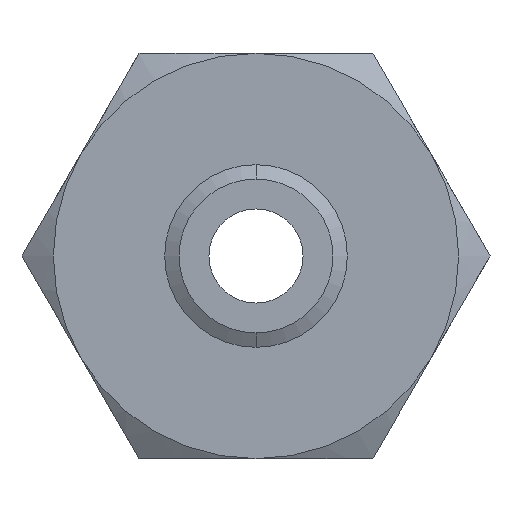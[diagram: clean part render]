
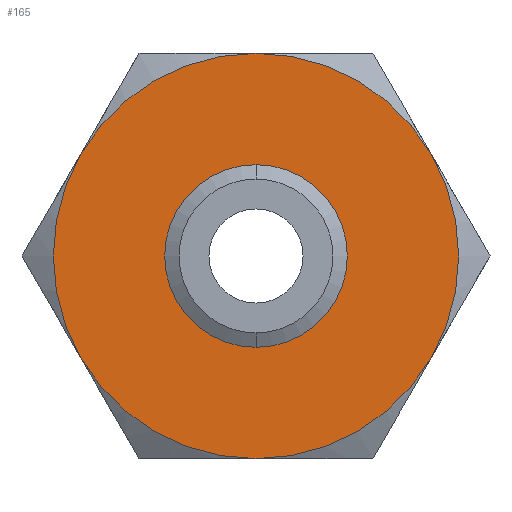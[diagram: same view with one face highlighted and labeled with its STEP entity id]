
A CAD part, front view. The second image highlights one B-rep face of the part: STEP entity #165.
In plain terms, the highlighted planar face has unit normal (0, -1, 0).
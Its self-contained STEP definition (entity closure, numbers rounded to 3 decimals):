
#88 = EDGE_LOOP ( 'NONE', ( #174, #176, #173, #133, #415, #451 ) ) ;
#132 = VERTEX_POINT ( 'NONE', #928 ) ;
#133 = ORIENTED_EDGE ( 'NONE', *, *, #179, .F. ) ;
#136 = VERTEX_POINT ( 'NONE', #927 ) ;
#165 = ADVANCED_FACE ( 'NONE', ( #1006, #1005 ), #1004, .F. ) ;
#170 = VERTEX_POINT ( 'NONE', #1060 ) ;
#171 = EDGE_CURVE ( 'NONE', #172, #170, #1059, .T. ) ;
#172 = VERTEX_POINT ( 'NONE', #1054 ) ;
#173 = ORIENTED_EDGE ( 'NONE', *, *, #178, .F. ) ;
#174 = ORIENTED_EDGE ( 'NONE', *, *, #185, .F. ) ;
#176 = ORIENTED_EDGE ( 'NONE', *, *, #171, .F. ) ;
#178 = EDGE_CURVE ( 'NONE', #132, #172, #1036, .T. ) ;
#179 = EDGE_CURVE ( 'NONE', #375, #132, #1093, .T. ) ;
#185 = EDGE_CURVE ( 'NONE', #170, #136, #1087, .T. ) ;
#375 = VERTEX_POINT ( 'NONE', #1479 ) ;
#412 = EDGE_CURVE ( 'NONE', #470, #469, #1542, .T. ) ;
#414 = VERTEX_POINT ( 'NONE', #1533 ) ;
#415 = ORIENTED_EDGE ( 'NONE', *, *, #450, .F. ) ;
#450 = EDGE_CURVE ( 'NONE', #414, #375, #1598, .T. ) ;
#451 = ORIENTED_EDGE ( 'NONE', *, *, #452, .F. ) ;
#452 = EDGE_CURVE ( 'NONE', #136, #414, #1593, .T. ) ;
#453 = EDGE_LOOP ( 'NONE', ( #454, #455 ) ) ;
#454 = ORIENTED_EDGE ( 'NONE', *, *, #505, .F. ) ;
#455 = ORIENTED_EDGE ( 'NONE', *, *, #412, .F. ) ;
#469 = VERTEX_POINT ( 'NONE', #1623 ) ;
#470 = VERTEX_POINT ( 'NONE', #1622 ) ;
#505 = EDGE_CURVE ( 'NONE', #469, #470, #1689, .T. ) ;
#927 = CARTESIAN_POINT ( 'NONE',  ( 67.117, 0., 38.75 ) ) ;
#928 = CARTESIAN_POINT ( 'NONE',  ( -67.117, 0., -38.75 ) ) ;
#1000 = DIRECTION ( 'NONE',  ( 0., 0., 1. ) ) ;
#1001 = DIRECTION ( 'NONE',  ( 0., 1., 0. ) ) ;
#1002 = CARTESIAN_POINT ( 'NONE',  ( 44.745, 0., -77.5 ) ) ;
#1003 = AXIS2_PLACEMENT_3D ( 'NONE', #1002, #1001, #1000 ) ;
#1004 = PLANE ( 'NONE',  #1003 ) ;
#1005 = FACE_BOUND ( 'NONE', #453, .T. ) ;
#1006 = FACE_OUTER_BOUND ( 'NONE', #88, .T. ) ;
#1035 = AXIS2_PLACEMENT_3D ( 'NONE', #1051, #1050, #1049 ) ;
#1036 = CIRCLE ( 'NONE', #1035, 77.5 ) ;
#1049 = DIRECTION ( 'NONE',  ( 0., 0., 1. ) ) ;
#1050 = DIRECTION ( 'NONE',  ( 0., 1., 0. ) ) ;
#1051 = CARTESIAN_POINT ( 'NONE',  ( 0., 0., 0. ) ) ;
#1054 = CARTESIAN_POINT ( 'NONE',  ( -67.117, 0., 38.75 ) ) ;
#1055 = DIRECTION ( 'NONE',  ( 0., 0., 1. ) ) ;
#1056 = DIRECTION ( 'NONE',  ( 0., 1., 0. ) ) ;
#1057 = CARTESIAN_POINT ( 'NONE',  ( 0., 0., 0. ) ) ;
#1058 = AXIS2_PLACEMENT_3D ( 'NONE', #1057, #1056, #1055 ) ;
#1059 = CIRCLE ( 'NONE', #1058, 77.5 ) ;
#1060 = CARTESIAN_POINT ( 'NONE',  ( 0., 0., 77.5 ) ) ;
#1071 = DIRECTION ( 'NONE',  ( 0., 0., 1. ) ) ;
#1072 = DIRECTION ( 'NONE',  ( 0., 1., 0. ) ) ;
#1085 = CARTESIAN_POINT ( 'NONE',  ( 0., 0., 0. ) ) ;
#1086 = AXIS2_PLACEMENT_3D ( 'NONE', #1085, #1072, #1071 ) ;
#1087 = CIRCLE ( 'NONE', #1086, 77.5 ) ;
#1089 = DIRECTION ( 'NONE',  ( 0., 0., 1. ) ) ;
#1090 = DIRECTION ( 'NONE',  ( 0., 1., 0. ) ) ;
#1091 = CARTESIAN_POINT ( 'NONE',  ( 0., 0., 0. ) ) ;
#1092 = AXIS2_PLACEMENT_3D ( 'NONE', #1091, #1090, #1089 ) ;
#1093 = CIRCLE ( 'NONE', #1092, 77.5 ) ;
#1479 = CARTESIAN_POINT ( 'NONE',  ( 0., 0., -77.5 ) ) ;
#1533 = CARTESIAN_POINT ( 'NONE',  ( 67.117, 0., -38.75 ) ) ;
#1538 = DIRECTION ( 'NONE',  ( 0., 0., -1. ) ) ;
#1539 = DIRECTION ( 'NONE',  ( 0., -1., 0. ) ) ;
#1540 = CARTESIAN_POINT ( 'NONE',  ( 0., 0., 0. ) ) ;
#1541 = AXIS2_PLACEMENT_3D ( 'NONE', #1540, #1539, #1538 ) ;
#1542 = CIRCLE ( 'NONE', #1541, 29.426 ) ;
#1590 = DIRECTION ( 'NONE',  ( 0., 0., 1. ) ) ;
#1591 = DIRECTION ( 'NONE',  ( 0., 1., 0. ) ) ;
#1592 = AXIS2_PLACEMENT_3D ( 'NONE', #1599, #1591, #1590 ) ;
#1593 = CIRCLE ( 'NONE', #1592, 77.5 ) ;
#1594 = DIRECTION ( 'NONE',  ( 0., 0., 1. ) ) ;
#1595 = DIRECTION ( 'NONE',  ( 0., 1., 0. ) ) ;
#1596 = CARTESIAN_POINT ( 'NONE',  ( 0., 0., 0. ) ) ;
#1597 = AXIS2_PLACEMENT_3D ( 'NONE', #1596, #1595, #1594 ) ;
#1598 = CIRCLE ( 'NONE', #1597, 77.5 ) ;
#1599 = CARTESIAN_POINT ( 'NONE',  ( 0., 0., 0. ) ) ;
#1622 = CARTESIAN_POINT ( 'NONE',  ( 0., 0., 29.426 ) ) ;
#1623 = CARTESIAN_POINT ( 'NONE',  ( 0., 0., -29.426 ) ) ;
#1682 = DIRECTION ( 'NONE',  ( 0., 0., -1. ) ) ;
#1683 = DIRECTION ( 'NONE',  ( 0., -1., 0. ) ) ;
#1684 = CARTESIAN_POINT ( 'NONE',  ( 0., 0., 0. ) ) ;
#1685 = AXIS2_PLACEMENT_3D ( 'NONE', #1684, #1683, #1682 ) ;
#1689 = CIRCLE ( 'NONE', #1685, 29.426 ) ;
